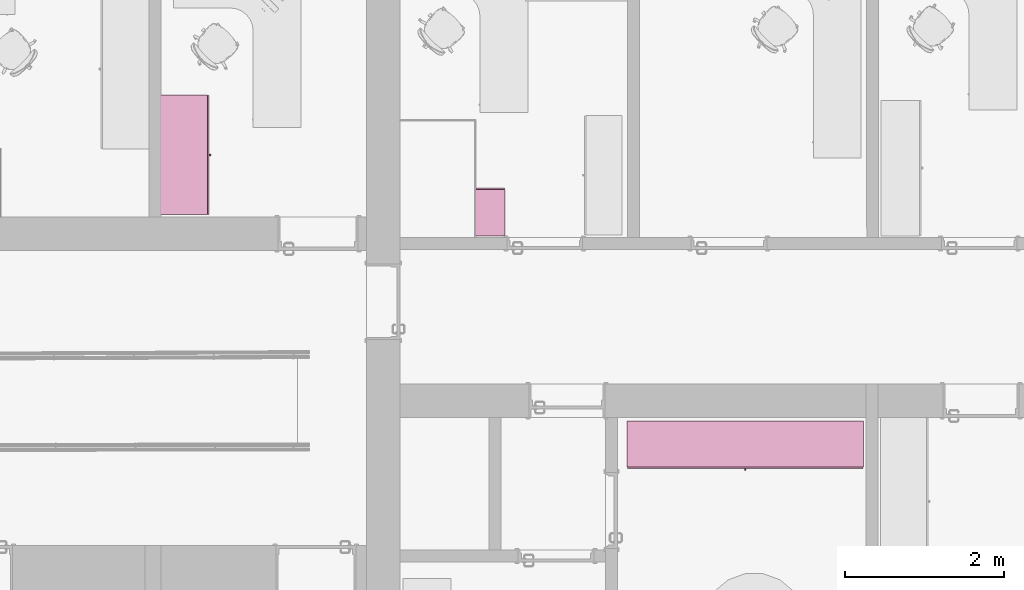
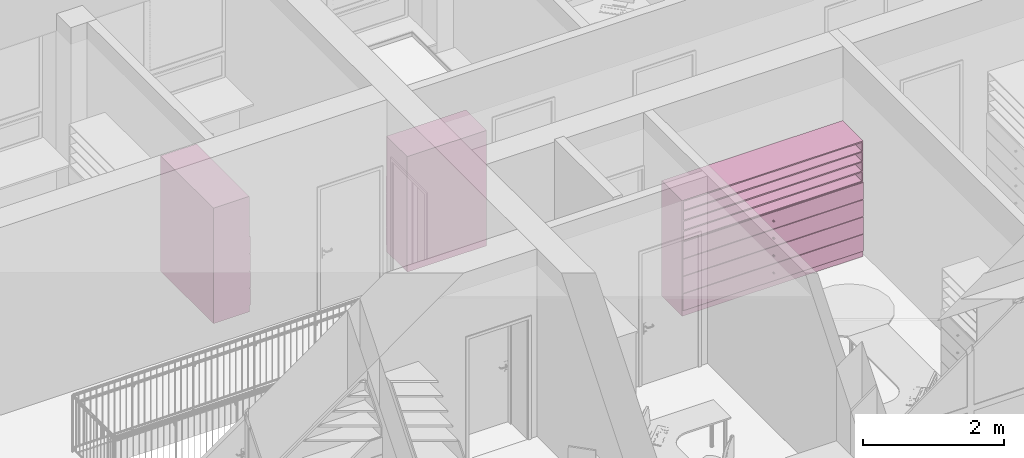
# One storey, part 179 of 194: 3 furnishings.
"""IFC2X3 building model written with IfcOpenShell, lengths in millimetres."""

from ifc_helpers import new_model, entity, si_unit, converted_unit, derived_unit, money_unit, direction, frame, origin_with_axes, place, context, subcontext, project, spatial, faceted_brep, type_object, element, save


model = new_model("IFC2X3")

# Units and contexts
model_context = context("Model", 3, precision=1e-05, world=origin_with_axes(), true_north=direction((0.0, 1.0)))
body_context = subcontext(model_context, "Body", "Model", "MODEL_VIEW")
ifc_project = project(units=[si_unit("LENGTHUNIT", "METRE", prefix="MILLI"), si_unit("AREAUNIT", "SQUARE_METRE"), si_unit("VOLUMEUNIT", "CUBIC_METRE"), converted_unit("PLANEANGLEUNIT", "DEGREE", entity("IfcPlaneAngleMeasure", 0.0174532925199), si_unit("PLANEANGLEUNIT", "RADIAN"), dimensions=[0, 0, 0, 0, 0, 0, 0]), si_unit("SOLIDANGLEUNIT", "STERADIAN"), money_unit("EUR"), converted_unit("TIMEUNIT", "Year", entity("IfcTimeMeasure", 31556926.0), si_unit("TIMEUNIT", "SECOND"), dimensions=[0, 0, 1, 0, 0, 0, 0]), si_unit("MASSUNIT", "GRAM", prefix="KILO"), si_unit("THERMODYNAMICTEMPERATUREUNIT", "DEGREE_CELSIUS"), si_unit("LUMINOUSINTENSITYUNIT", "LUMEN"), si_unit("ENERGYUNIT", "JOULE", prefix="MEGA"), derived_unit("THERMALCONDUCTANCEUNIT", [(si_unit("POWERUNIT", "WATT"), 1), (si_unit("LENGTHUNIT", "METRE"), -1), (si_unit("THERMODYNAMICTEMPERATUREUNIT", "KELVIN"), -1)]), derived_unit("SPECIFICHEATCAPACITYUNIT", [(si_unit("ENERGYUNIT", "JOULE"), 1), (si_unit("MASSUNIT", "GRAM", prefix="KILO"), -1), (si_unit("THERMODYNAMICTEMPERATUREUNIT", "KELVIN"), -1)]), derived_unit("MASSDENSITYUNIT", [(si_unit("MASSUNIT", "GRAM", prefix="KILO"), 1), (si_unit("VOLUMEUNIT", "CUBIC_METRE"), -1)])], contexts=[model_context])

# Site, building, storey
site_placement = place(None, origin_with_axes())
site = spatial("IfcSite", under=ifc_project, at=site_placement, Name="Site", CompositionType="ELEMENT")
building_placement = place(site_placement, origin_with_axes())
building = spatial("IfcBuilding", under=site, at=building_placement, Name="Building", CompositionType="ELEMENT")
storey_placement = place(building_placement, frame((0.0, 0.0, 3000.0), z_axis=(0.0, 0.0, 1.0), x_axis=(1.0, 0.0, 0.0)))
storey = spatial("IfcBuildingStorey", under=building, at=storey_placement, Name="2 KORRUS", CompositionType="ELEMENT", Elevation=3000.0)

# Furnishings
furnishing_element_type_1 = type_object("IfcFurnishingElementType", Name="Model Element 102")
furnishing_1_placement = place(storey_placement, frame((17474.6667877, 68089.610518, 0.0), z_axis=(0.0, 0.0, 1.0), x_axis=(-0.999999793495, 0.000642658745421, 0.0)))
element("IfcFurnishingElement", 1, at=furnishing_1_placement, inside=storey, type_object=furnishing_element_type_1, Name="FU - 001", context=body_context, shape_type="Brep", body=[
    faceted_brep([(1300.0, 19.0, 0.0), (0.0, 19.0, 0.0), (0.0, 605.507074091, 0.0), (1300.0, 605.507074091, 0.0), (1300.0, 19.0, 100.0), (0.0, 19.0, 100.0), (0.0, 605.507074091, 100.0), (1300.0, 605.507074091, 100.0)], [[[0, 1, 2, 3]], [[1, 0, 4, 5]], [[2, 1, 5, 6]], [[3, 2, 6, 7]], [[0, 3, 7, 4]], [[5, 4, 7, 6]]]),
    faceted_brep([(19.0, 605.507074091, 119.0), (19.0, 586.507074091, 119.0), (19.0, 586.507074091, 1981.0), (19.0, 605.507074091, 1981.0), (1281.0, 605.507074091, 119.0), (1281.0, 586.507074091, 119.0), (1281.0, 586.507074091, 1981.0), (1281.0, 605.507074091, 1981.0)], [[[0, 1, 2, 3]], [[0, 4, 5, 1]], [[1, 5, 6, 2]], [[3, 2, 6, 7]], [[4, 0, 3, 7]], [[5, 4, 7, 6]]]),
    faceted_brep([(1300.0, 19.0, 100.0), (1281.0, 19.0, 100.0), (1281.0, 605.507074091, 100.0), (1300.0, 605.507074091, 100.0), (1300.0, 19.0, 2000.0), (1281.0, 19.0, 2000.0), (1281.0, 605.507074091, 2000.0), (1300.0, 605.507074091, 2000.0)], [[[0, 1, 2, 3]], [[1, 0, 4, 5]], [[2, 1, 5, 6]], [[3, 2, 6, 7]], [[0, 3, 7, 4]], [[5, 4, 7, 6]]]),
    faceted_brep([(19.0, 19.0, 100.0), (0.0, 19.0, 100.0), (0.0, 605.507074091, 100.0), (19.0, 605.507074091, 100.0), (19.0, 19.0, 2000.0), (0.0, 19.0, 2000.0), (0.0, 605.507074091, 2000.0), (19.0, 605.507074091, 2000.0)], [[[0, 1, 2, 3]], [[1, 0, 4, 5]], [[2, 1, 5, 6]], [[3, 2, 6, 7]], [[0, 3, 7, 4]], [[5, 4, 7, 6]]]),
    faceted_brep([(1281.0, 19.0, 100.0), (19.0, 19.0, 100.0), (19.0, 605.507074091, 100.0), (1281.0, 605.507074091, 100.0), (1281.0, 19.0, 119.0), (19.0, 19.0, 119.0), (19.0, 605.507074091, 119.0), (1281.0, 605.507074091, 119.0)], [[[0, 1, 2, 3]], [[1, 0, 4, 5]], [[2, 1, 5, 6]], [[3, 2, 6, 7]], [[0, 3, 7, 4]], [[5, 4, 7, 6]]]),
    faceted_brep([(1281.0, 19.0, 1981.0), (19.0, 19.0, 1981.0), (19.0, 605.507074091, 1981.0), (1281.0, 605.507074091, 1981.0), (1281.0, 19.0, 2000.0), (19.0, 19.0, 2000.0), (19.0, 605.507074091, 2000.0), (1281.0, 605.507074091, 2000.0)], [[[0, 1, 2, 3]], [[1, 0, 4, 5]], [[2, 1, 5, 6]], [[3, 2, 6, 7]], [[0, 3, 7, 4]], [[5, 4, 7, 6]]]),
    faceted_brep([(5.0, 19.0, 105.0), (1295.0, 19.0, 105.0), (1295.0, 0.0, 105.0), (5.0, 0.0, 105.0), (5.0, 19.0, 395.0), (1295.0, 19.0, 395.0), (1295.0, 0.0, 395.0), (5.0, 0.0, 395.0)], [[[0, 1, 2, 3]], [[0, 4, 5, 1]], [[1, 5, 6, 2]], [[3, 2, 6, 7]], [[4, 0, 3, 7]], [[5, 4, 7, 6]]]),
    faceted_brep([(660.392304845, 0.0, 244.0), (656.0, 0.0, 239.607695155), (650.0, 0.0, 238.0), (644.0, 0.0, 239.607695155), (639.607695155, 0.0, 244.0), (638.0, 0.0, 250.0), (639.607695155, 0.0, 256.0), (644.0, 0.0, 260.392304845), (650.0, 0.0, 262.0), (656.0, 0.0, 260.392304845), (660.392304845, 0.0, 256.0), (662.0, 0.0, 250.0), (660.392304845, -25.0, 244.0), (656.0, -25.0, 239.607695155), (650.0, -25.0, 238.0), (644.0, -25.0, 239.607695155), (639.607695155, -25.0, 244.0), (638.0, -25.0, 250.0), (639.607695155, -25.0, 256.0), (644.0, -25.0, 260.392304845), (650.0, -25.0, 262.0), (656.0, -25.0, 260.392304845), (660.392304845, -25.0, 256.0), (662.0, -25.0, 250.0)], [[[0, 1, 2, 3, 4, 5, 6, 7, 8, 9, 10, 11]], [[1, 0, 12, 13]], [[2, 1, 13, 14]], [[3, 2, 14, 15]], [[4, 3, 15, 16]], [[5, 4, 16, 17]], [[6, 5, 17, 18]], [[7, 6, 18, 19]], [[8, 7, 19, 20]], [[9, 8, 20, 21]], [[10, 9, 21, 22]], [[11, 10, 22, 23]], [[0, 11, 23, 12]], [[12, 23, 22, 21, 20, 19, 18, 17, 16, 15, 14, 13]]]),
    faceted_brep([(5.0, 19.0, 405.0), (1295.0, 19.0, 405.0), (1295.0, 0.0, 405.0), (5.0, 0.0, 405.0), (5.0, 19.0, 695.0), (1295.0, 19.0, 695.0), (1295.0, 0.0, 695.0), (5.0, 0.0, 695.0)], [[[0, 1, 2, 3]], [[0, 4, 5, 1]], [[1, 5, 6, 2]], [[3, 2, 6, 7]], [[4, 0, 3, 7]], [[5, 4, 7, 6]]]),
    faceted_brep([(660.392304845, 0.0, 544.0), (656.0, 0.0, 539.607695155), (650.0, 0.0, 538.0), (644.0, 0.0, 539.607695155), (639.607695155, 0.0, 544.0), (638.0, 0.0, 550.0), (639.607695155, 0.0, 556.0), (644.0, 0.0, 560.392304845), (650.0, 0.0, 562.0), (656.0, 0.0, 560.392304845), (660.392304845, 0.0, 556.0), (662.0, 0.0, 550.0), (660.392304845, -25.0, 544.0), (656.0, -25.0, 539.607695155), (650.0, -25.0, 538.0), (644.0, -25.0, 539.607695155), (639.607695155, -25.0, 544.0), (638.0, -25.0, 550.0), (639.607695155, -25.0, 556.0), (644.0, -25.0, 560.392304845), (650.0, -25.0, 562.0), (656.0, -25.0, 560.392304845), (660.392304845, -25.0, 556.0), (662.0, -25.0, 550.0)], [[[0, 1, 2, 3, 4, 5, 6, 7, 8, 9, 10, 11]], [[1, 0, 12, 13]], [[2, 1, 13, 14]], [[3, 2, 14, 15]], [[4, 3, 15, 16]], [[5, 4, 16, 17]], [[6, 5, 17, 18]], [[7, 6, 18, 19]], [[8, 7, 19, 20]], [[9, 8, 20, 21]], [[10, 9, 21, 22]], [[11, 10, 22, 23]], [[0, 11, 23, 12]], [[12, 23, 22, 21, 20, 19, 18, 17, 16, 15, 14, 13]]]),
    faceted_brep([(5.0, 19.0, 705.0), (1295.0, 19.0, 705.0), (1295.0, 0.0, 705.0), (5.0, 0.0, 705.0), (5.0, 19.0, 995.0), (1295.0, 19.0, 995.0), (1295.0, 0.0, 995.0), (5.0, 0.0, 995.0)], [[[0, 1, 2, 3]], [[0, 4, 5, 1]], [[1, 5, 6, 2]], [[3, 2, 6, 7]], [[4, 0, 3, 7]], [[5, 4, 7, 6]]]),
    faceted_brep([(660.392304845, 0.0, 844.0), (656.0, 0.0, 839.607695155), (650.0, 0.0, 838.0), (644.0, 0.0, 839.607695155), (639.607695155, 0.0, 844.0), (638.0, 0.0, 850.0), (639.607695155, 0.0, 856.0), (644.0, 0.0, 860.392304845), (650.0, 0.0, 862.0), (656.0, 0.0, 860.392304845), (660.392304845, 0.0, 856.0), (662.0, 0.0, 850.0), (660.392304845, -25.0, 844.0), (656.0, -25.0, 839.607695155), (650.0, -25.0, 838.0), (644.0, -25.0, 839.607695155), (639.607695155, -25.0, 844.0), (638.0, -25.0, 850.0), (639.607695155, -25.0, 856.0), (644.0, -25.0, 860.392304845), (650.0, -25.0, 862.0), (656.0, -25.0, 860.392304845), (660.392304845, -25.0, 856.0), (662.0, -25.0, 850.0)], [[[0, 1, 2, 3, 4, 5, 6, 7, 8, 9, 10, 11]], [[1, 0, 12, 13]], [[2, 1, 13, 14]], [[3, 2, 14, 15]], [[4, 3, 15, 16]], [[5, 4, 16, 17]], [[6, 5, 17, 18]], [[7, 6, 18, 19]], [[8, 7, 19, 20]], [[9, 8, 20, 21]], [[10, 9, 21, 22]], [[11, 10, 22, 23]], [[0, 11, 23, 12]], [[12, 23, 22, 21, 20, 19, 18, 17, 16, 15, 14, 13]]]),
    faceted_brep([(5.0, 19.0, 1005.0), (1295.0, 19.0, 1005.0), (1295.0, 0.0, 1005.0), (5.0, 0.0, 1005.0), (5.0, 19.0, 1295.0), (1295.0, 19.0, 1295.0), (1295.0, 0.0, 1295.0), (5.0, 0.0, 1295.0)], [[[0, 1, 2, 3]], [[0, 4, 5, 1]], [[1, 5, 6, 2]], [[3, 2, 6, 7]], [[4, 0, 3, 7]], [[5, 4, 7, 6]]]),
    faceted_brep([(660.392304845, 0.0, 1144.0), (656.0, 0.0, 1139.60769515), (650.0, 0.0, 1138.0), (644.0, 0.0, 1139.60769515), (639.607695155, 0.0, 1144.0), (638.0, 0.0, 1150.0), (639.607695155, 0.0, 1156.0), (644.0, 0.0, 1160.39230485), (650.0, 0.0, 1162.0), (656.0, 0.0, 1160.39230485), (660.392304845, 0.0, 1156.0), (662.0, 0.0, 1150.0), (660.392304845, -25.0, 1144.0), (656.0, -25.0, 1139.60769515), (650.0, -25.0, 1138.0), (644.0, -25.0, 1139.60769515), (639.607695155, -25.0, 1144.0), (638.0, -25.0, 1150.0), (639.607695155, -25.0, 1156.0), (644.0, -25.0, 1160.39230485), (650.0, -25.0, 1162.0), (656.0, -25.0, 1160.39230485), (660.392304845, -25.0, 1156.0), (662.0, -25.0, 1150.0)], [[[0, 1, 2, 3, 4, 5, 6, 7, 8, 9, 10, 11]], [[1, 0, 12, 13]], [[2, 1, 13, 14]], [[3, 2, 14, 15]], [[4, 3, 15, 16]], [[5, 4, 16, 17]], [[6, 5, 17, 18]], [[7, 6, 18, 19]], [[8, 7, 19, 20]], [[9, 8, 20, 21]], [[10, 9, 21, 22]], [[11, 10, 22, 23]], [[0, 11, 23, 12]], [[12, 23, 22, 21, 20, 19, 18, 17, 16, 15, 14, 13]]]),
    faceted_brep([(19.0, 19.0, 390.5), (1281.0, 19.0, 390.5), (1281.0, 19.0, 409.5), (19.0, 19.0, 409.5), (19.0, 586.507074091, 390.5), (1281.0, 586.507074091, 390.5), (1281.0, 586.507074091, 409.5), (19.0, 586.507074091, 409.5)], [[[0, 1, 2, 3]], [[0, 4, 5, 1]], [[1, 5, 6, 2]], [[3, 2, 6, 7]], [[4, 0, 3, 7]], [[5, 4, 7, 6]]]),
    faceted_brep([(19.0, 19.0, 690.5), (1281.0, 19.0, 690.5), (1281.0, 19.0, 709.5), (19.0, 19.0, 709.5), (19.0, 586.507074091, 690.5), (1281.0, 586.507074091, 690.5), (1281.0, 586.507074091, 709.5), (19.0, 586.507074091, 709.5)], [[[0, 1, 2, 3]], [[0, 4, 5, 1]], [[1, 5, 6, 2]], [[3, 2, 6, 7]], [[4, 0, 3, 7]], [[5, 4, 7, 6]]]),
    faceted_brep([(19.0, 19.0, 990.5), (1281.0, 19.0, 990.5), (1281.0, 19.0, 1009.5), (19.0, 19.0, 1009.5), (19.0, 586.507074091, 990.5), (1281.0, 586.507074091, 990.5), (1281.0, 586.507074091, 1009.5), (19.0, 586.507074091, 1009.5)], [[[0, 1, 2, 3]], [[0, 4, 5, 1]], [[1, 5, 6, 2]], [[3, 2, 6, 7]], [[4, 0, 3, 7]], [[5, 4, 7, 6]]]),
    faceted_brep([(19.0, 19.0, 1290.5), (1281.0, 19.0, 1290.5), (1281.0, 19.0, 1309.5), (19.0, 19.0, 1309.5), (19.0, 586.507074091, 1290.5), (1281.0, 586.507074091, 1290.5), (1281.0, 586.507074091, 1309.5), (19.0, 586.507074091, 1309.5)], [[[0, 1, 2, 3]], [[0, 4, 5, 1]], [[1, 5, 6, 2]], [[3, 2, 6, 7]], [[4, 0, 3, 7]], [[5, 4, 7, 6]]]),
    faceted_brep([(1281.0, 19.0, 1463.125), (19.0, 19.0, 1463.125), (19.0, 586.507074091, 1463.125), (1281.0, 586.507074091, 1463.125), (1281.0, 19.0, 1482.125), (19.0, 19.0, 1482.125), (19.0, 586.507074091, 1482.125), (1281.0, 586.507074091, 1482.125)], [[[0, 1, 2, 3]], [[1, 0, 4, 5]], [[2, 1, 5, 6]], [[3, 2, 6, 7]], [[0, 3, 7, 4]], [[5, 4, 7, 6]]]),
    faceted_brep([(1281.0, 19.0, 1635.75), (19.0, 19.0, 1635.75), (19.0, 586.507074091, 1635.75), (1281.0, 586.507074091, 1635.75), (1281.0, 19.0, 1654.75), (19.0, 19.0, 1654.75), (19.0, 586.507074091, 1654.75), (1281.0, 586.507074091, 1654.75)], [[[0, 1, 2, 3]], [[1, 0, 4, 5]], [[2, 1, 5, 6]], [[3, 2, 6, 7]], [[0, 3, 7, 4]], [[5, 4, 7, 6]]]),
    faceted_brep([(1281.0, 19.0, 1808.375), (19.0, 19.0, 1808.375), (19.0, 586.507074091, 1808.375), (1281.0, 586.507074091, 1808.375), (1281.0, 19.0, 1827.375), (19.0, 19.0, 1827.375), (19.0, 586.507074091, 1827.375), (1281.0, 586.507074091, 1827.375)], [[[0, 1, 2, 3]], [[1, 0, 4, 5]], [[2, 1, 5, 6]], [[3, 2, 6, 7]], [[0, 3, 7, 4]], [[5, 4, 7, 6]]]),
])
furnishing_element_type_2 = type_object("IfcFurnishingElementType", Name="Model Element 92")
furnishing_2_placement = place(storey_placement, frame((13761.3843082, 67753.5980765, 0.0), z_axis=(0.0, 0.0, 1.0), x_axis=(0.00064265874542, 0.999999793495, 0.0)))
element("IfcFurnishingElement", 2, at=furnishing_2_placement, inside=storey, type_object=furnishing_element_type_2, Name="FU - 001", context=body_context, shape_type="Brep", body=[
    faceted_brep([(1500.0, 19.0, 0.0), (0.0, 19.0, 0.0), (0.0, 607.279890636, 0.0), (1500.0, 607.279890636, 0.0), (1500.0, 19.0, 100.0), (0.0, 19.0, 100.0), (0.0, 607.279890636, 100.0), (1500.0, 607.279890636, 100.0)], [[[0, 1, 2, 3]], [[1, 0, 4, 5]], [[2, 1, 5, 6]], [[3, 2, 6, 7]], [[0, 3, 7, 4]], [[5, 4, 7, 6]]]),
    faceted_brep([(19.0, 607.279890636, 119.0), (19.0, 588.279890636, 119.0), (19.0, 588.279890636, 1981.0), (19.0, 607.279890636, 1981.0), (1481.0, 607.279890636, 119.0), (1481.0, 588.279890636, 119.0), (1481.0, 588.279890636, 1981.0), (1481.0, 607.279890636, 1981.0)], [[[0, 1, 2, 3]], [[0, 4, 5, 1]], [[1, 5, 6, 2]], [[3, 2, 6, 7]], [[4, 0, 3, 7]], [[5, 4, 7, 6]]]),
    faceted_brep([(1500.0, 19.0, 100.0), (1481.0, 19.0, 100.0), (1481.0, 607.279890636, 100.0), (1500.0, 607.279890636, 100.0), (1500.0, 19.0, 2000.0), (1481.0, 19.0, 2000.0), (1481.0, 607.279890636, 2000.0), (1500.0, 607.279890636, 2000.0)], [[[0, 1, 2, 3]], [[1, 0, 4, 5]], [[2, 1, 5, 6]], [[3, 2, 6, 7]], [[0, 3, 7, 4]], [[5, 4, 7, 6]]]),
    faceted_brep([(19.0, 19.0, 100.0), (0.0, 19.0, 100.0), (0.0, 607.279890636, 100.0), (19.0, 607.279890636, 100.0), (19.0, 19.0, 2000.0), (0.0, 19.0, 2000.0), (0.0, 607.279890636, 2000.0), (19.0, 607.279890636, 2000.0)], [[[0, 1, 2, 3]], [[1, 0, 4, 5]], [[2, 1, 5, 6]], [[3, 2, 6, 7]], [[0, 3, 7, 4]], [[5, 4, 7, 6]]]),
    faceted_brep([(1481.0, 19.0, 100.0), (19.0, 19.0, 100.0), (19.0, 607.279890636, 100.0), (1481.0, 607.279890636, 100.0), (1481.0, 19.0, 119.0), (19.0, 19.0, 119.0), (19.0, 607.279890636, 119.0), (1481.0, 607.279890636, 119.0)], [[[0, 1, 2, 3]], [[1, 0, 4, 5]], [[2, 1, 5, 6]], [[3, 2, 6, 7]], [[0, 3, 7, 4]], [[5, 4, 7, 6]]]),
    faceted_brep([(1481.0, 19.0, 1981.0), (19.0, 19.0, 1981.0), (19.0, 607.279890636, 1981.0), (1481.0, 607.279890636, 1981.0), (1481.0, 19.0, 2000.0), (19.0, 19.0, 2000.0), (19.0, 607.279890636, 2000.0), (1481.0, 607.279890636, 2000.0)], [[[0, 1, 2, 3]], [[1, 0, 4, 5]], [[2, 1, 5, 6]], [[3, 2, 6, 7]], [[0, 3, 7, 4]], [[5, 4, 7, 6]]]),
    faceted_brep([(5.0, 19.0, 105.0), (1495.0, 19.0, 105.0), (1495.0, 0.0, 105.0), (5.0, 0.0, 105.0), (5.0, 19.0, 395.0), (1495.0, 19.0, 395.0), (1495.0, 0.0, 395.0), (5.0, 0.0, 395.0)], [[[0, 1, 2, 3]], [[0, 4, 5, 1]], [[1, 5, 6, 2]], [[3, 2, 6, 7]], [[4, 0, 3, 7]], [[5, 4, 7, 6]]]),
    faceted_brep([(760.392304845, 0.0, 244.0), (756.0, 0.0, 239.607695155), (750.0, 0.0, 238.0), (744.0, 0.0, 239.607695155), (739.607695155, 0.0, 244.0), (738.0, 0.0, 250.0), (739.607695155, 0.0, 256.0), (744.0, 0.0, 260.392304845), (750.0, 0.0, 262.0), (756.0, 0.0, 260.392304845), (760.392304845, 0.0, 256.0), (762.0, 0.0, 250.0), (760.392304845, -25.0, 244.0), (756.0, -25.0, 239.607695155), (750.0, -25.0, 238.0), (744.0, -25.0, 239.607695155), (739.607695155, -25.0, 244.0), (738.0, -25.0, 250.0), (739.607695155, -25.0, 256.0), (744.0, -25.0, 260.392304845), (750.0, -25.0, 262.0), (756.0, -25.0, 260.392304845), (760.392304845, -25.0, 256.0), (762.0, -25.0, 250.0)], [[[0, 1, 2, 3, 4, 5, 6, 7, 8, 9, 10, 11]], [[1, 0, 12, 13]], [[2, 1, 13, 14]], [[3, 2, 14, 15]], [[4, 3, 15, 16]], [[5, 4, 16, 17]], [[6, 5, 17, 18]], [[7, 6, 18, 19]], [[8, 7, 19, 20]], [[9, 8, 20, 21]], [[10, 9, 21, 22]], [[11, 10, 22, 23]], [[0, 11, 23, 12]], [[12, 23, 22, 21, 20, 19, 18, 17, 16, 15, 14, 13]]]),
    faceted_brep([(5.0, 19.0, 405.0), (1495.0, 19.0, 405.0), (1495.0, 0.0, 405.0), (5.0, 0.0, 405.0), (5.0, 19.0, 695.0), (1495.0, 19.0, 695.0), (1495.0, 0.0, 695.0), (5.0, 0.0, 695.0)], [[[0, 1, 2, 3]], [[0, 4, 5, 1]], [[1, 5, 6, 2]], [[3, 2, 6, 7]], [[4, 0, 3, 7]], [[5, 4, 7, 6]]]),
    faceted_brep([(760.392304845, 0.0, 544.0), (756.0, 0.0, 539.607695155), (750.0, 0.0, 538.0), (744.0, 0.0, 539.607695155), (739.607695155, 0.0, 544.0), (738.0, 0.0, 550.0), (739.607695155, 0.0, 556.0), (744.0, 0.0, 560.392304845), (750.0, 0.0, 562.0), (756.0, 0.0, 560.392304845), (760.392304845, 0.0, 556.0), (762.0, 0.0, 550.0), (760.392304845, -25.0, 544.0), (756.0, -25.0, 539.607695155), (750.0, -25.0, 538.0), (744.0, -25.0, 539.607695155), (739.607695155, -25.0, 544.0), (738.0, -25.0, 550.0), (739.607695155, -25.0, 556.0), (744.0, -25.0, 560.392304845), (750.0, -25.0, 562.0), (756.0, -25.0, 560.392304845), (760.392304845, -25.0, 556.0), (762.0, -25.0, 550.0)], [[[0, 1, 2, 3, 4, 5, 6, 7, 8, 9, 10, 11]], [[1, 0, 12, 13]], [[2, 1, 13, 14]], [[3, 2, 14, 15]], [[4, 3, 15, 16]], [[5, 4, 16, 17]], [[6, 5, 17, 18]], [[7, 6, 18, 19]], [[8, 7, 19, 20]], [[9, 8, 20, 21]], [[10, 9, 21, 22]], [[11, 10, 22, 23]], [[0, 11, 23, 12]], [[12, 23, 22, 21, 20, 19, 18, 17, 16, 15, 14, 13]]]),
    faceted_brep([(5.0, 19.0, 705.0), (1495.0, 19.0, 705.0), (1495.0, 0.0, 705.0), (5.0, 0.0, 705.0), (5.0, 19.0, 995.0), (1495.0, 19.0, 995.0), (1495.0, 0.0, 995.0), (5.0, 0.0, 995.0)], [[[0, 1, 2, 3]], [[0, 4, 5, 1]], [[1, 5, 6, 2]], [[3, 2, 6, 7]], [[4, 0, 3, 7]], [[5, 4, 7, 6]]]),
    faceted_brep([(760.392304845, 0.0, 844.0), (756.0, 0.0, 839.607695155), (750.0, 0.0, 838.0), (744.0, 0.0, 839.607695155), (739.607695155, 0.0, 844.0), (738.0, 0.0, 850.0), (739.607695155, 0.0, 856.0), (744.0, 0.0, 860.392304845), (750.0, 0.0, 862.0), (756.0, 0.0, 860.392304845), (760.392304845, 0.0, 856.0), (762.0, 0.0, 850.0), (760.392304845, -25.0, 844.0), (756.0, -25.0, 839.607695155), (750.0, -25.0, 838.0), (744.0, -25.0, 839.607695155), (739.607695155, -25.0, 844.0), (738.0, -25.0, 850.0), (739.607695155, -25.0, 856.0), (744.0, -25.0, 860.392304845), (750.0, -25.0, 862.0), (756.0, -25.0, 860.392304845), (760.392304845, -25.0, 856.0), (762.0, -25.0, 850.0)], [[[0, 1, 2, 3, 4, 5, 6, 7, 8, 9, 10, 11]], [[1, 0, 12, 13]], [[2, 1, 13, 14]], [[3, 2, 14, 15]], [[4, 3, 15, 16]], [[5, 4, 16, 17]], [[6, 5, 17, 18]], [[7, 6, 18, 19]], [[8, 7, 19, 20]], [[9, 8, 20, 21]], [[10, 9, 21, 22]], [[11, 10, 22, 23]], [[0, 11, 23, 12]], [[12, 23, 22, 21, 20, 19, 18, 17, 16, 15, 14, 13]]]),
    faceted_brep([(5.0, 19.0, 1005.0), (1495.0, 19.0, 1005.0), (1495.0, 0.0, 1005.0), (5.0, 0.0, 1005.0), (5.0, 19.0, 1295.0), (1495.0, 19.0, 1295.0), (1495.0, 0.0, 1295.0), (5.0, 0.0, 1295.0)], [[[0, 1, 2, 3]], [[0, 4, 5, 1]], [[1, 5, 6, 2]], [[3, 2, 6, 7]], [[4, 0, 3, 7]], [[5, 4, 7, 6]]]),
    faceted_brep([(760.392304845, 0.0, 1144.0), (756.0, 0.0, 1139.60769515), (750.0, 0.0, 1138.0), (744.0, 0.0, 1139.60769515), (739.607695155, 0.0, 1144.0), (738.0, 0.0, 1150.0), (739.607695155, 0.0, 1156.0), (744.0, 0.0, 1160.39230485), (750.0, 0.0, 1162.0), (756.0, 0.0, 1160.39230485), (760.392304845, 0.0, 1156.0), (762.0, 0.0, 1150.0), (760.392304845, -25.0, 1144.0), (756.0, -25.0, 1139.60769515), (750.0, -25.0, 1138.0), (744.0, -25.0, 1139.60769515), (739.607695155, -25.0, 1144.0), (738.0, -25.0, 1150.0), (739.607695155, -25.0, 1156.0), (744.0, -25.0, 1160.39230485), (750.0, -25.0, 1162.0), (756.0, -25.0, 1160.39230485), (760.392304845, -25.0, 1156.0), (762.0, -25.0, 1150.0)], [[[0, 1, 2, 3, 4, 5, 6, 7, 8, 9, 10, 11]], [[1, 0, 12, 13]], [[2, 1, 13, 14]], [[3, 2, 14, 15]], [[4, 3, 15, 16]], [[5, 4, 16, 17]], [[6, 5, 17, 18]], [[7, 6, 18, 19]], [[8, 7, 19, 20]], [[9, 8, 20, 21]], [[10, 9, 21, 22]], [[11, 10, 22, 23]], [[0, 11, 23, 12]], [[12, 23, 22, 21, 20, 19, 18, 17, 16, 15, 14, 13]]]),
    faceted_brep([(19.0, 19.0, 390.5), (1481.0, 19.0, 390.5), (1481.0, 19.0, 409.5), (19.0, 19.0, 409.5), (19.0, 588.279890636, 390.5), (1481.0, 588.279890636, 390.5), (1481.0, 588.279890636, 409.5), (19.0, 588.279890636, 409.5)], [[[0, 1, 2, 3]], [[0, 4, 5, 1]], [[1, 5, 6, 2]], [[3, 2, 6, 7]], [[4, 0, 3, 7]], [[5, 4, 7, 6]]]),
    faceted_brep([(19.0, 19.0, 690.5), (1481.0, 19.0, 690.5), (1481.0, 19.0, 709.5), (19.0, 19.0, 709.5), (19.0, 588.279890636, 690.5), (1481.0, 588.279890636, 690.5), (1481.0, 588.279890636, 709.5), (19.0, 588.279890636, 709.5)], [[[0, 1, 2, 3]], [[0, 4, 5, 1]], [[1, 5, 6, 2]], [[3, 2, 6, 7]], [[4, 0, 3, 7]], [[5, 4, 7, 6]]]),
    faceted_brep([(19.0, 19.0, 990.5), (1481.0, 19.0, 990.5), (1481.0, 19.0, 1009.5), (19.0, 19.0, 1009.5), (19.0, 588.279890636, 990.5), (1481.0, 588.279890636, 990.5), (1481.0, 588.279890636, 1009.5), (19.0, 588.279890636, 1009.5)], [[[0, 1, 2, 3]], [[0, 4, 5, 1]], [[1, 5, 6, 2]], [[3, 2, 6, 7]], [[4, 0, 3, 7]], [[5, 4, 7, 6]]]),
    faceted_brep([(19.0, 19.0, 1290.5), (1481.0, 19.0, 1290.5), (1481.0, 19.0, 1309.5), (19.0, 19.0, 1309.5), (19.0, 588.279890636, 1290.5), (1481.0, 588.279890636, 1290.5), (1481.0, 588.279890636, 1309.5), (19.0, 588.279890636, 1309.5)], [[[0, 1, 2, 3]], [[0, 4, 5, 1]], [[1, 5, 6, 2]], [[3, 2, 6, 7]], [[4, 0, 3, 7]], [[5, 4, 7, 6]]]),
    faceted_brep([(1481.0, 19.0, 1463.125), (19.0, 19.0, 1463.125), (19.0, 588.279890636, 1463.125), (1481.0, 588.279890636, 1463.125), (1481.0, 19.0, 1482.125), (19.0, 19.0, 1482.125), (19.0, 588.279890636, 1482.125), (1481.0, 588.279890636, 1482.125)], [[[0, 1, 2, 3]], [[1, 0, 4, 5]], [[2, 1, 5, 6]], [[3, 2, 6, 7]], [[0, 3, 7, 4]], [[5, 4, 7, 6]]]),
    faceted_brep([(1481.0, 19.0, 1635.75), (19.0, 19.0, 1635.75), (19.0, 588.279890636, 1635.75), (1481.0, 588.279890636, 1635.75), (1481.0, 19.0, 1654.75), (19.0, 19.0, 1654.75), (19.0, 588.279890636, 1654.75), (1481.0, 588.279890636, 1654.75)], [[[0, 1, 2, 3]], [[1, 0, 4, 5]], [[2, 1, 5, 6]], [[3, 2, 6, 7]], [[0, 3, 7, 4]], [[5, 4, 7, 6]]]),
    faceted_brep([(1481.0, 19.0, 1808.375), (19.0, 19.0, 1808.375), (19.0, 588.279890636, 1808.375), (1481.0, 588.279890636, 1808.375), (1481.0, 19.0, 1827.375), (19.0, 19.0, 1827.375), (19.0, 588.279890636, 1827.375), (1481.0, 588.279890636, 1827.375)], [[[0, 1, 2, 3]], [[1, 0, 4, 5]], [[2, 1, 5, 6]], [[3, 2, 6, 7]], [[0, 3, 7, 4]], [[5, 4, 7, 6]]]),
])
furnishing_element_type_3 = type_object("IfcFurnishingElementType", Name="Model Element 25")
furnishing_3_placement = place(storey_placement, frame((19006.2300297, 64568.7649696, 0.0), z_axis=(0.0, 0.0, 1.0), x_axis=(1.0, 0.0, 0.0)))
element("IfcFurnishingElement", 3, at=furnishing_3_placement, inside=storey, type_object=furnishing_element_type_3, Name="FU - 001", context=body_context, shape_type="Brep", body=[
    faceted_brep([(2964.77238257, 19.0, 0.0), (0.0, 19.0, 0.0), (0.0, 600.0, 0.0), (2964.77238257, 600.0, 0.0), (2964.77238257, 19.0, 100.0), (0.0, 19.0, 100.0), (0.0, 600.0, 100.0), (2964.77238257, 600.0, 100.0)], [[[0, 1, 2, 3]], [[1, 0, 4, 5]], [[2, 1, 5, 6]], [[3, 2, 6, 7]], [[0, 3, 7, 4]], [[5, 4, 7, 6]]]),
    faceted_brep([(19.0, 600.0, 119.0), (19.0, 581.0, 119.0), (19.0, 581.0, 1981.0), (19.0, 600.0, 1981.0), (2945.77238257, 600.0, 119.0), (2945.77238257, 581.0, 119.0), (2945.77238257, 581.0, 1981.0), (2945.77238257, 600.0, 1981.0)], [[[0, 1, 2, 3]], [[0, 4, 5, 1]], [[1, 5, 6, 2]], [[3, 2, 6, 7]], [[4, 0, 3, 7]], [[5, 4, 7, 6]]]),
    faceted_brep([(2964.77238257, 19.0, 100.0), (2945.77238257, 19.0, 100.0), (2945.77238257, 600.0, 100.0), (2964.77238257, 600.0, 100.0), (2964.77238257, 19.0, 2000.0), (2945.77238257, 19.0, 2000.0), (2945.77238257, 600.0, 2000.0), (2964.77238257, 600.0, 2000.0)], [[[0, 1, 2, 3]], [[1, 0, 4, 5]], [[2, 1, 5, 6]], [[3, 2, 6, 7]], [[0, 3, 7, 4]], [[5, 4, 7, 6]]]),
    faceted_brep([(19.0, 19.0, 100.0), (0.0, 19.0, 100.0), (0.0, 600.0, 100.0), (19.0, 600.0, 100.0), (19.0, 19.0, 2000.0), (0.0, 19.0, 2000.0), (0.0, 600.0, 2000.0), (19.0, 600.0, 2000.0)], [[[0, 1, 2, 3]], [[1, 0, 4, 5]], [[2, 1, 5, 6]], [[3, 2, 6, 7]], [[0, 3, 7, 4]], [[5, 4, 7, 6]]]),
    faceted_brep([(2945.77238257, 19.0, 100.0), (19.0, 19.0, 100.0), (19.0, 600.0, 100.0), (2945.77238257, 600.0, 100.0), (2945.77238257, 19.0, 119.0), (19.0, 19.0, 119.0), (19.0, 600.0, 119.0), (2945.77238257, 600.0, 119.0)], [[[0, 1, 2, 3]], [[1, 0, 4, 5]], [[2, 1, 5, 6]], [[3, 2, 6, 7]], [[0, 3, 7, 4]], [[5, 4, 7, 6]]]),
    faceted_brep([(2945.77238257, 19.0, 1981.0), (19.0, 19.0, 1981.0), (19.0, 600.0, 1981.0), (2945.77238257, 600.0, 1981.0), (2945.77238257, 19.0, 2000.0), (19.0, 19.0, 2000.0), (19.0, 600.0, 2000.0), (2945.77238257, 600.0, 2000.0)], [[[0, 1, 2, 3]], [[1, 0, 4, 5]], [[2, 1, 5, 6]], [[3, 2, 6, 7]], [[0, 3, 7, 4]], [[5, 4, 7, 6]]]),
    faceted_brep([(5.0, 19.0, 105.0), (2959.77238257, 19.0, 105.0), (2959.77238257, 0.0, 105.0), (5.0, 0.0, 105.0), (5.0, 19.0, 395.0), (2959.77238257, 19.0, 395.0), (2959.77238257, 0.0, 395.0), (5.0, 0.0, 395.0)], [[[0, 1, 2, 3]], [[0, 4, 5, 1]], [[1, 5, 6, 2]], [[3, 2, 6, 7]], [[4, 0, 3, 7]], [[5, 4, 7, 6]]]),
    faceted_brep([(1492.77849613, 0.0, 244.0), (1488.38619129, 0.0, 239.607695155), (1482.38619129, 0.0, 238.0), (1476.38619129, 0.0, 239.607695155), (1471.99388644, 0.0, 244.0), (1470.38619129, 0.0, 250.0), (1471.99388644, 0.0, 256.0), (1476.38619129, 0.0, 260.392304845), (1482.38619129, 0.0, 262.0), (1488.38619129, 0.0, 260.392304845), (1492.77849613, 0.0, 256.0), (1494.38619129, 0.0, 250.0), (1492.77849613, -25.0, 244.0), (1488.38619129, -25.0, 239.607695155), (1482.38619129, -25.0, 238.0), (1476.38619129, -25.0, 239.607695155), (1471.99388644, -25.0, 244.0), (1470.38619129, -25.0, 250.0), (1471.99388644, -25.0, 256.0), (1476.38619129, -25.0, 260.392304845), (1482.38619129, -25.0, 262.0), (1488.38619129, -25.0, 260.392304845), (1492.77849613, -25.0, 256.0), (1494.38619129, -25.0, 250.0)], [[[0, 1, 2, 3, 4, 5, 6, 7, 8, 9, 10, 11]], [[1, 0, 12, 13]], [[2, 1, 13, 14]], [[3, 2, 14, 15]], [[4, 3, 15, 16]], [[5, 4, 16, 17]], [[6, 5, 17, 18]], [[7, 6, 18, 19]], [[8, 7, 19, 20]], [[9, 8, 20, 21]], [[10, 9, 21, 22]], [[11, 10, 22, 23]], [[0, 11, 23, 12]], [[12, 23, 22, 21, 20, 19, 18, 17, 16, 15, 14, 13]]]),
    faceted_brep([(5.0, 19.0, 405.0), (2959.77238257, 19.0, 405.0), (2959.77238257, 0.0, 405.0), (5.0, 0.0, 405.0), (5.0, 19.0, 695.0), (2959.77238257, 19.0, 695.0), (2959.77238257, 0.0, 695.0), (5.0, 0.0, 695.0)], [[[0, 1, 2, 3]], [[0, 4, 5, 1]], [[1, 5, 6, 2]], [[3, 2, 6, 7]], [[4, 0, 3, 7]], [[5, 4, 7, 6]]]),
    faceted_brep([(1492.77849613, 0.0, 544.0), (1488.38619129, 0.0, 539.607695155), (1482.38619129, 0.0, 538.0), (1476.38619129, 0.0, 539.607695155), (1471.99388644, 0.0, 544.0), (1470.38619129, 0.0, 550.0), (1471.99388644, 0.0, 556.0), (1476.38619129, 0.0, 560.392304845), (1482.38619129, 0.0, 562.0), (1488.38619129, 0.0, 560.392304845), (1492.77849613, 0.0, 556.0), (1494.38619129, 0.0, 550.0), (1492.77849613, -25.0, 544.0), (1488.38619129, -25.0, 539.607695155), (1482.38619129, -25.0, 538.0), (1476.38619129, -25.0, 539.607695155), (1471.99388644, -25.0, 544.0), (1470.38619129, -25.0, 550.0), (1471.99388644, -25.0, 556.0), (1476.38619129, -25.0, 560.392304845), (1482.38619129, -25.0, 562.0), (1488.38619129, -25.0, 560.392304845), (1492.77849613, -25.0, 556.0), (1494.38619129, -25.0, 550.0)], [[[0, 1, 2, 3, 4, 5, 6, 7, 8, 9, 10, 11]], [[1, 0, 12, 13]], [[2, 1, 13, 14]], [[3, 2, 14, 15]], [[4, 3, 15, 16]], [[5, 4, 16, 17]], [[6, 5, 17, 18]], [[7, 6, 18, 19]], [[8, 7, 19, 20]], [[9, 8, 20, 21]], [[10, 9, 21, 22]], [[11, 10, 22, 23]], [[0, 11, 23, 12]], [[12, 23, 22, 21, 20, 19, 18, 17, 16, 15, 14, 13]]]),
    faceted_brep([(5.0, 19.0, 705.0), (2959.77238257, 19.0, 705.0), (2959.77238257, 0.0, 705.0), (5.0, 0.0, 705.0), (5.0, 19.0, 995.0), (2959.77238257, 19.0, 995.0), (2959.77238257, 0.0, 995.0), (5.0, 0.0, 995.0)], [[[0, 1, 2, 3]], [[0, 4, 5, 1]], [[1, 5, 6, 2]], [[3, 2, 6, 7]], [[4, 0, 3, 7]], [[5, 4, 7, 6]]]),
    faceted_brep([(1492.77849613, 0.0, 844.0), (1488.38619129, 0.0, 839.607695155), (1482.38619129, 0.0, 838.0), (1476.38619129, 0.0, 839.607695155), (1471.99388644, 0.0, 844.0), (1470.38619129, 0.0, 850.0), (1471.99388644, 0.0, 856.0), (1476.38619129, 0.0, 860.392304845), (1482.38619129, 0.0, 862.0), (1488.38619129, 0.0, 860.392304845), (1492.77849613, 0.0, 856.0), (1494.38619129, 0.0, 850.0), (1492.77849613, -25.0, 844.0), (1488.38619129, -25.0, 839.607695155), (1482.38619129, -25.0, 838.0), (1476.38619129, -25.0, 839.607695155), (1471.99388644, -25.0, 844.0), (1470.38619129, -25.0, 850.0), (1471.99388644, -25.0, 856.0), (1476.38619129, -25.0, 860.392304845), (1482.38619129, -25.0, 862.0), (1488.38619129, -25.0, 860.392304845), (1492.77849613, -25.0, 856.0), (1494.38619129, -25.0, 850.0)], [[[0, 1, 2, 3, 4, 5, 6, 7, 8, 9, 10, 11]], [[1, 0, 12, 13]], [[2, 1, 13, 14]], [[3, 2, 14, 15]], [[4, 3, 15, 16]], [[5, 4, 16, 17]], [[6, 5, 17, 18]], [[7, 6, 18, 19]], [[8, 7, 19, 20]], [[9, 8, 20, 21]], [[10, 9, 21, 22]], [[11, 10, 22, 23]], [[0, 11, 23, 12]], [[12, 23, 22, 21, 20, 19, 18, 17, 16, 15, 14, 13]]]),
    faceted_brep([(5.0, 19.0, 1005.0), (2959.77238257, 19.0, 1005.0), (2959.77238257, 0.0, 1005.0), (5.0, 0.0, 1005.0), (5.0, 19.0, 1295.0), (2959.77238257, 19.0, 1295.0), (2959.77238257, 0.0, 1295.0), (5.0, 0.0, 1295.0)], [[[0, 1, 2, 3]], [[0, 4, 5, 1]], [[1, 5, 6, 2]], [[3, 2, 6, 7]], [[4, 0, 3, 7]], [[5, 4, 7, 6]]]),
    faceted_brep([(1492.77849613, 0.0, 1144.0), (1488.38619129, 0.0, 1139.60769515), (1482.38619129, 0.0, 1138.0), (1476.38619129, 0.0, 1139.60769515), (1471.99388644, 0.0, 1144.0), (1470.38619129, 0.0, 1150.0), (1471.99388644, 0.0, 1156.0), (1476.38619129, 0.0, 1160.39230485), (1482.38619129, 0.0, 1162.0), (1488.38619129, 0.0, 1160.39230485), (1492.77849613, 0.0, 1156.0), (1494.38619129, 0.0, 1150.0), (1492.77849613, -25.0, 1144.0), (1488.38619129, -25.0, 1139.60769515), (1482.38619129, -25.0, 1138.0), (1476.38619129, -25.0, 1139.60769515), (1471.99388644, -25.0, 1144.0), (1470.38619129, -25.0, 1150.0), (1471.99388644, -25.0, 1156.0), (1476.38619129, -25.0, 1160.39230485), (1482.38619129, -25.0, 1162.0), (1488.38619129, -25.0, 1160.39230485), (1492.77849613, -25.0, 1156.0), (1494.38619129, -25.0, 1150.0)], [[[0, 1, 2, 3, 4, 5, 6, 7, 8, 9, 10, 11]], [[1, 0, 12, 13]], [[2, 1, 13, 14]], [[3, 2, 14, 15]], [[4, 3, 15, 16]], [[5, 4, 16, 17]], [[6, 5, 17, 18]], [[7, 6, 18, 19]], [[8, 7, 19, 20]], [[9, 8, 20, 21]], [[10, 9, 21, 22]], [[11, 10, 22, 23]], [[0, 11, 23, 12]], [[12, 23, 22, 21, 20, 19, 18, 17, 16, 15, 14, 13]]]),
    faceted_brep([(19.0, 19.0, 390.5), (2945.77238257, 19.0, 390.5), (2945.77238257, 19.0, 409.5), (19.0, 19.0, 409.5), (19.0, 581.0, 390.5), (2945.77238257, 581.0, 390.5), (2945.77238257, 581.0, 409.5), (19.0, 581.0, 409.5)], [[[0, 1, 2, 3]], [[0, 4, 5, 1]], [[1, 5, 6, 2]], [[3, 2, 6, 7]], [[4, 0, 3, 7]], [[5, 4, 7, 6]]]),
    faceted_brep([(19.0, 19.0, 690.5), (2945.77238257, 19.0, 690.5), (2945.77238257, 19.0, 709.5), (19.0, 19.0, 709.5), (19.0, 581.0, 690.5), (2945.77238257, 581.0, 690.5), (2945.77238257, 581.0, 709.5), (19.0, 581.0, 709.5)], [[[0, 1, 2, 3]], [[0, 4, 5, 1]], [[1, 5, 6, 2]], [[3, 2, 6, 7]], [[4, 0, 3, 7]], [[5, 4, 7, 6]]]),
    faceted_brep([(19.0, 19.0, 990.5), (2945.77238257, 19.0, 990.5), (2945.77238257, 19.0, 1009.5), (19.0, 19.0, 1009.5), (19.0, 581.0, 990.5), (2945.77238257, 581.0, 990.5), (2945.77238257, 581.0, 1009.5), (19.0, 581.0, 1009.5)], [[[0, 1, 2, 3]], [[0, 4, 5, 1]], [[1, 5, 6, 2]], [[3, 2, 6, 7]], [[4, 0, 3, 7]], [[5, 4, 7, 6]]]),
    faceted_brep([(19.0, 19.0, 1290.5), (2945.77238257, 19.0, 1290.5), (2945.77238257, 19.0, 1309.5), (19.0, 19.0, 1309.5), (19.0, 581.0, 1290.5), (2945.77238257, 581.0, 1290.5), (2945.77238257, 581.0, 1309.5), (19.0, 581.0, 1309.5)], [[[0, 1, 2, 3]], [[0, 4, 5, 1]], [[1, 5, 6, 2]], [[3, 2, 6, 7]], [[4, 0, 3, 7]], [[5, 4, 7, 6]]]),
    faceted_brep([(2945.77238257, 19.0, 1463.125), (19.0, 19.0, 1463.125), (19.0, 581.0, 1463.125), (2945.77238257, 581.0, 1463.125), (2945.77238257, 19.0, 1482.125), (19.0, 19.0, 1482.125), (19.0, 581.0, 1482.125), (2945.77238257, 581.0, 1482.125)], [[[0, 1, 2, 3]], [[1, 0, 4, 5]], [[2, 1, 5, 6]], [[3, 2, 6, 7]], [[0, 3, 7, 4]], [[5, 4, 7, 6]]]),
    faceted_brep([(2945.77238257, 19.0, 1635.75), (19.0, 19.0, 1635.75), (19.0, 581.0, 1635.75), (2945.77238257, 581.0, 1635.75), (2945.77238257, 19.0, 1654.75), (19.0, 19.0, 1654.75), (19.0, 581.0, 1654.75), (2945.77238257, 581.0, 1654.75)], [[[0, 1, 2, 3]], [[1, 0, 4, 5]], [[2, 1, 5, 6]], [[3, 2, 6, 7]], [[0, 3, 7, 4]], [[5, 4, 7, 6]]]),
    faceted_brep([(2945.77238257, 19.0, 1808.375), (19.0, 19.0, 1808.375), (19.0, 581.0, 1808.375), (2945.77238257, 581.0, 1808.375), (2945.77238257, 19.0, 1827.375), (19.0, 19.0, 1827.375), (19.0, 581.0, 1827.375), (2945.77238257, 581.0, 1827.375)], [[[0, 1, 2, 3]], [[1, 0, 4, 5]], [[2, 1, 5, 6]], [[3, 2, 6, 7]], [[0, 3, 7, 4]], [[5, 4, 7, 6]]]),
])

save(model, "model.ifc")
